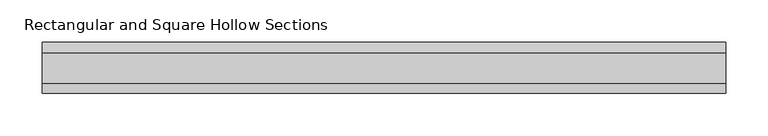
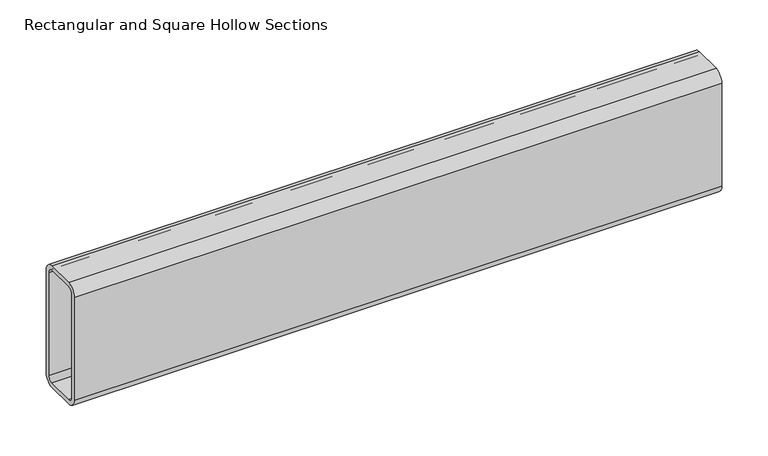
"""IFC4 building model written with IfcOpenShell, lengths in millimetres: beam geometry, Rectangular and Square Hollow Sections : TREC160x60x6."""

from ifc_helpers import new_model, si_unit, point, frame, frame_2d, origin, place, context, project, spatial, polyline, circle_curve, trimmed, segment, composite_curve, outline, extrude, source, transform, mapped, element, save


def rectangular_and_square_hollow_sections_62294a34(model_context):
    return source(origin(), model_context, "Body", "SweptSolid", [
        extrude(outline(composite_curve([segment(polyline([(30.0, 68.0), (30.0, -68.0)]), True, "CONTINUOUS"), segment(trimmed(circle_curve(frame_2d((18.0, -68.0)), 12.0), [point((30.0, -68.0))], [point((18.0, -80.0))], False, "CARTESIAN"), True, "CONTINUOUS"), segment(polyline([(18.0, -80.0), (-18.0, -80.0)]), True, "CONTINUOUS"), segment(trimmed(circle_curve(frame_2d((-18.0, -68.0)), 12.0), [point((-18.0, -80.0))], [point((-30.0, -68.0))], False, "CARTESIAN"), True, "CONTINUOUS"), segment(polyline([(-30.0, -68.0), (-30.0, 68.0)]), True, "CONTINUOUS"), segment(trimmed(circle_curve(frame_2d((-18.0, 68.0)), 12.0), [point((-30.0, 68.0))], [point((-18.0, 80.0))], False, "CARTESIAN"), True, "CONTINUOUS"), segment(polyline([(-18.0, 80.0), (18.0, 80.0)]), True, "CONTINUOUS"), segment(trimmed(circle_curve(frame_2d((18.0, 68.0)), 12.0), [point((18.0, 80.0))], [point((30.0, 68.0))], False, "CARTESIAN"), True, "CONTINUOUS")], self_intersect=False), holes=[composite_curve([segment(trimmed(circle_curve(frame_2d((-18.0, 68.0)), 6.0), [point((-18.0, 74.0))], [point((-24.0, 68.0))], True, "CARTESIAN"), True, "CONTINUOUS"), segment(polyline([(-24.0, 68.0), (-24.0, -68.0)]), True, "CONTINUOUS"), segment(trimmed(circle_curve(frame_2d((-18.0, -68.0)), 6.0), [point((-24.0, -68.0))], [point((-18.0, -74.0))], True, "CARTESIAN"), True, "CONTINUOUS"), segment(polyline([(-18.0, -74.0), (18.0, -74.0)]), True, "CONTINUOUS"), segment(trimmed(circle_curve(frame_2d((18.0, -68.0)), 6.0), [point((18.0, -74.0))], [point((24.0, -68.0))], True, "CARTESIAN"), True, "CONTINUOUS"), segment(polyline([(24.0, -68.0), (24.0, 68.0)]), True, "CONTINUOUS"), segment(trimmed(circle_curve(frame_2d((18.0, 68.0)), 6.0), [point((24.0, 68.0))], [point((18.0, 74.0))], True, "CARTESIAN"), True, "CONTINUOUS"), segment(polyline([(18.0, 74.0), (-18.0, 74.0)]), True, "CONTINUOUS")], self_intersect=False)]), frame((-389.5, 0.0, 0.0), z_axis=(1.0, 0.0, 0.0), x_axis=(0.0, 1.0, 0.0)), (0.0, 0.0, 1.0), 806.0),
    ])


if __name__ == "__main__":
    model = new_model("IFC4")
    model_context = context("Model", 3, world=origin())
    ifc_project = project(units=[si_unit("LENGTHUNIT", "METRE", prefix="MILLI")], contexts=[model_context])
    site = spatial("IfcSite", under=ifc_project)
    building = spatial("IfcBuilding", under=site)
    placement = place(None, origin())
    rectangular_and_square_hollow_sections_shape = rectangular_and_square_hollow_sections_62294a34(model_context)
    element("IfcBeam", 1, ObjectType="Rectangular and Square Hollow Sections : TREC160x60x6", at=placement, inside=building, context=model_context, shape_type="MappedRepresentation", body=[
        mapped(rectangular_and_square_hollow_sections_shape, transform((0.0, 0.0, 0.0), x_axis=(1.0, 0.0, 0.0), y_axis=(0.0, 1.0, 0.0), z_axis=(0.0, 0.0, 1.0))),
    ])
    save(model, "model.ifc")
